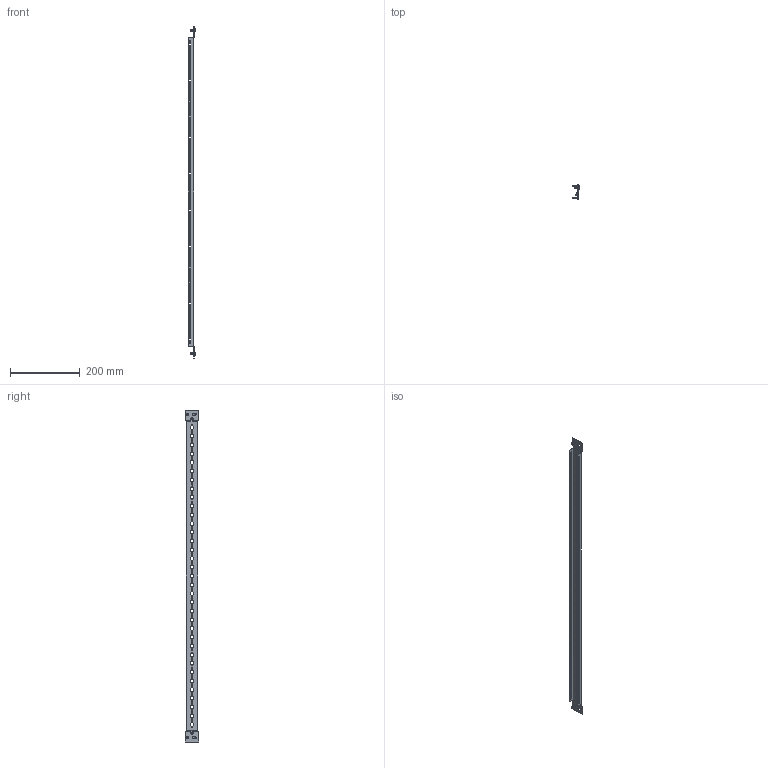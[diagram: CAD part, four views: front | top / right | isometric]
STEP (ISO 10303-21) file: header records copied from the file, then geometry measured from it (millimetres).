
FILE_DESCRIPTION(('Open CASCADE Model'),'2;1');
FILE_NAME('Open CASCADE Shape Model','2025-02-21T13:29:35',('Author'),( 'Open CASCADE'),'Open CASCADE STEP processor 7.8','Open CASCADE 7.8' ,'Unknown');
FILE_SCHEMA(('AUTOMOTIVE_DESIGN { 1 0 10303 214 1 1 1 1 }'));
Length unit declared in the file: millimetre
Products named in the file (3): Compound1; Solid1; Solid2
Assembly tree (3 placements, depth 2):
  Compound1
    Solid1
    Solid2  x2
Bounding box: 20.36 x 40 x 950.04 mm (x, y, z)
Volume: 70388.7 mm3; surface area: 105456.8 mm2
Topology: 3 solids, 3 shells, 1166 faces, 3400 edges, 2242 vertices
Faces by surface type: plane 612, cylinder 490, cone 56, torus 4, sphere 2, bspline 2
Full cylindrical faces by diameter (mm): 4.2 x102, 5 x28, 6.5 x4, 9.5 x2
Entity records: 38420 total; most frequent: CARTESIAN_POINT 7109, ORIENTED_EDGE 6582, DIRECTION 6370, EDGE_CURVE 3291, VERTEX_POINT 2186, AXIS2_PLACEMENT_3D 2125, LINE 2120, VECTOR 2120
